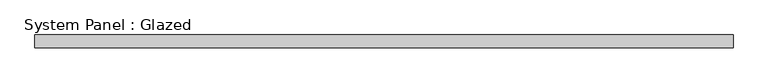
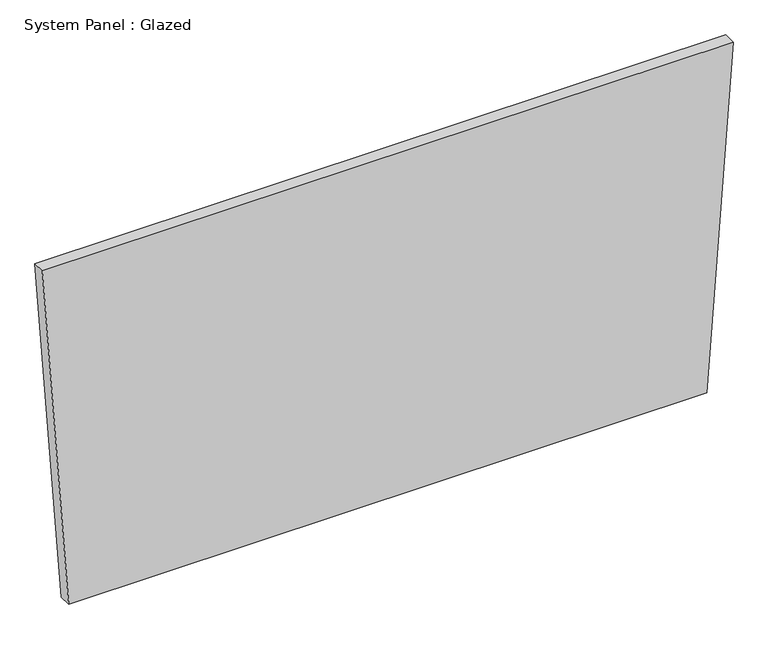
"""IFC4 building model written with IfcOpenShell, lengths in millimetres: plate geometry, System Panel : Glazed."""

from ifc_helpers import new_model, si_unit, frame, origin, place, context, project, spatial, polyline, outline, extrude, source, transform, mapped, element, save


def system_panel_glazed_a2529070(model_context):
    return source(origin(), model_context, "Body", "SweptSolid", [
        extrude(outline(polyline([(0.0, -637.9077808), (0.0029722, 637.90804), (722.995422, 690.5899317), (722.9960071, -690.5899317), (0.0, -637.9077808)])), frame((0.0, 19.05, 0.0), z_axis=(0.0, 1.0, 0.0), x_axis=(0.0, 0.0, 1.0)), (0.0, 0.0, 1.0), 25.4),
    ])


if __name__ == "__main__":
    model = new_model("IFC4")
    model_context = context("Model", 3, world=origin())
    ifc_project = project(units=[si_unit("LENGTHUNIT", "METRE", prefix="MILLI")], contexts=[model_context])
    site = spatial("IfcSite", under=ifc_project)
    building = spatial("IfcBuilding", under=site)
    placement = place(None, origin())
    system_panel_glazed_shape = system_panel_glazed_a2529070(model_context)
    element("IfcPlate", 1, ObjectType="System Panel : Glazed", at=placement, inside=building, context=model_context, shape_type="MappedRepresentation", body=[
        mapped(system_panel_glazed_shape, transform((0.0, 0.0, 0.0), x_axis=(1.0, 0.0, 0.0), y_axis=(0.0, 1.0, 0.0), z_axis=(0.0, 0.0, 1.0))),
    ])
    save(model, "model.ifc")
